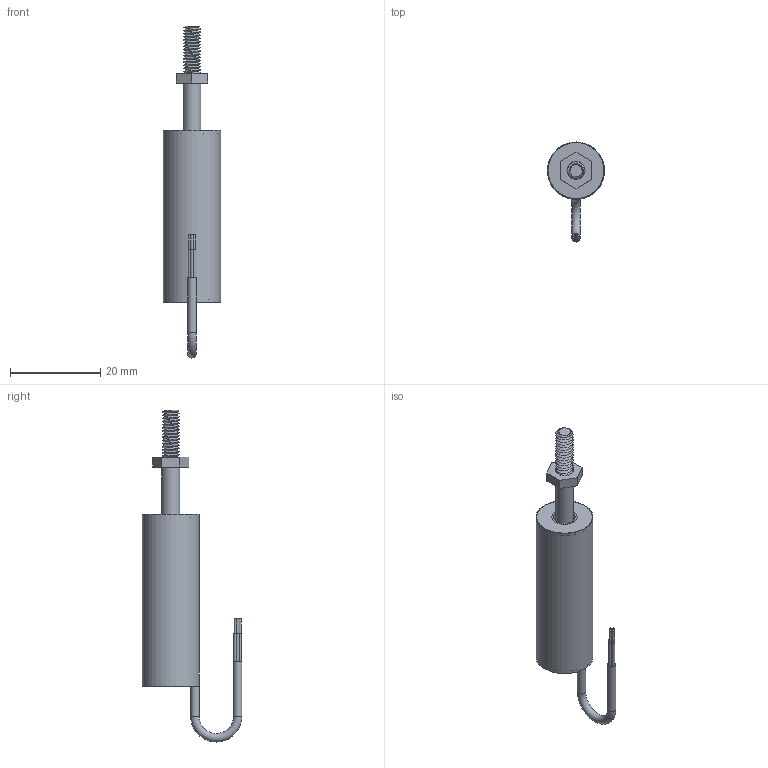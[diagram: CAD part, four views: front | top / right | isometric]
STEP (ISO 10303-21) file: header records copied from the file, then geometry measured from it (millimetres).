
FILE_DESCRIPTION(/* description */ (''),/* implementation_level */ '2;1');
FILE_NAME(/* name */ 'C:\Users\Justin\Documents\CAD\The Sensor Connection\Position Sensors\Displacement\ILPS\3D\Mechanically Linked\ILPS-13Z-XXX-A-00-YY-S\ILPS-13Z-.25-A-00-YY-S\ILPS-13Z-.25-A-00-YY-S Assembly_SW.iam.stp',/* time_stamp */ '2022-06-03T09:25:42-04:00',/* author */ ('TSC_Grant'),/* organization */ (''),/* preprocessor_version */ 'ST-DEVELOPER v19',/* originating_system */ 'Autodesk Inventor 2023',/* authorisation */ '');
FILE_SCHEMA (('AUTOMOTIVE_DESIGN { 1 0 10303 214 3 1 1 }'));
Length unit declared in the file: inch
Products named in the file (5): 3020-0017-XX Assembly_SW; 3020-0017-XX Sensor Tube_SW; 3020-0017-XX Shaft_SW; 3020-0017-XX Wire_SW; BS 4183 - M4
Assembly tree (4 placements, depth 2):
  3020-0017-XX Assembly_SW
    3020-0017-XX Sensor Tube_SW
    3020-0017-XX Shaft_SW
    3020-0017-XX Wire_SW
    BS 4183 - M4
Bounding box: 12.7 x 22.14 x 73.73 mm (x, y, z)
Volume: 1306 mm3; surface area: 5900.2 mm2
Topology: 7 solids, 7 shells, 60 faces, 112 edges, 74 vertices
Faces by surface type: plane 31, cylinder 21, cone 4, bspline 3, torus 1
Full cylindrical faces by diameter (mm): 0.508 x4, 0.635 x4, 1.857 x2, 3.242 x1, 3.988 x1, 4.826 x1, 5.588 x3, 12.446 x2, 12.7 x1
Entity records: 3399 total; most frequent: CARTESIAN_POINT 1856, DIRECTION 281, ORIENTED_EDGE 224, AXIS2_PLACEMENT_3D 116, EDGE_CURVE 112, EDGE_LOOP 78, VERTEX_POINT 74, FACE_OUTER_BOUND 60
